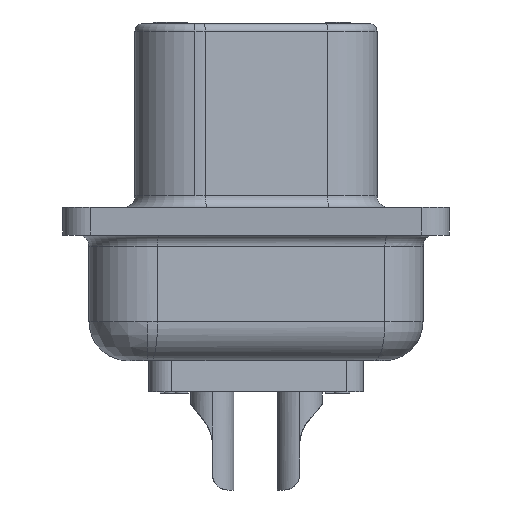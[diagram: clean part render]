
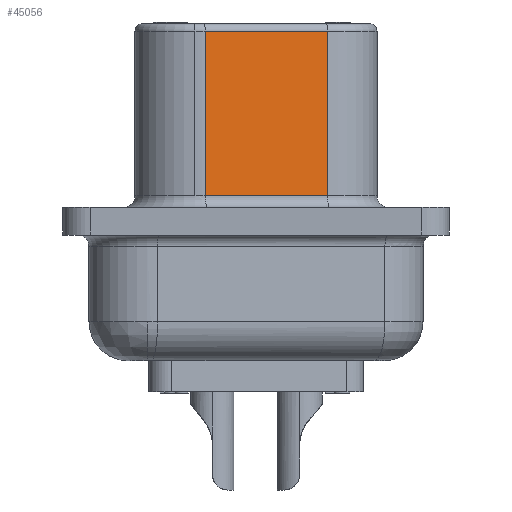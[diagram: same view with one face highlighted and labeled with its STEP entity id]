
A CAD part, left-side view. The second image highlights one B-rep face of the part: STEP entity #45056.
In plain terms, the highlighted planar face has unit normal (-0.985, -0.174, 0).
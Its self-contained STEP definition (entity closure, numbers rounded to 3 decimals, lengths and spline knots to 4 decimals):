
#5134 = VERTEX_POINT('',#5135);
#5135 = CARTESIAN_POINT('',(7.3049,7.9538,5.746));
#5150 = CYLINDRICAL_SURFACE('',#5151,1.9558);
#5151 = AXIS2_PLACEMENT_3D('',#5152,#5153,#5154);
#5152 = CARTESIAN_POINT('',(9.231,8.2934,6.));
#5153 = DIRECTION('',(-0.,-0.,-1.));
#5154 = DIRECTION('',(-1.,0.,0.));
#5177 = CYLINDRICAL_SURFACE('',#5178,0.254);
#5178 = AXIS2_PLACEMENT_3D('',#5179,#5180,#5181);
#5179 = CARTESIAN_POINT('',(8.2583,4.0095,5.746));
#5180 = DIRECTION('',(0.174,-0.985,0.));
#5181 = DIRECTION('',(0.985,0.174,0.));
#5338 = VERTEX_POINT('',#5339);
#5339 = CARTESIAN_POINT('',(7.3049,7.9538,0.381));
#5366 = EDGE_CURVE('',#5134,#5338,#5367,.T.);
#5367 = SURFACE_CURVE('',#5368,(#5372,#5379),.PCURVE_S1.);
#5368 = LINE('',#5369,#5370);
#5369 = CARTESIAN_POINT('',(7.3049,7.9538,6.));
#5370 = VECTOR('',#5371,1.);
#5371 = DIRECTION('',(-0.,-0.,-1.));
#5372 = PCURVE('',#5150,#5373);
#5373 = DEFINITIONAL_REPRESENTATION('',(#5374),#5378);
#5374 = LINE('',#5375,#5376);
#5375 = CARTESIAN_POINT('',(6.109,0.));
#5376 = VECTOR('',#5377,1.);
#5377 = DIRECTION('',(0.,1.));
#5378 = ( GEOMETRIC_REPRESENTATION_CONTEXT(2) 
PARAMETRIC_REPRESENTATION_CONTEXT() REPRESENTATION_CONTEXT('2D SPACE',''
  ) );
#5379 = PCURVE('',#5380,#5385);
#5380 = PLANE('',#5381);
#5381 = AXIS2_PLACEMENT_3D('',#5382,#5383,#5384);
#5382 = CARTESIAN_POINT('',(8.0082,3.9654,6.));
#5383 = DIRECTION('',(0.985,0.174,-0.));
#5384 = DIRECTION('',(-0.174,0.985,0.));
#5385 = DEFINITIONAL_REPRESENTATION('',(#5386),#5390);
#5386 = LINE('',#5387,#5388);
#5387 = CARTESIAN_POINT('',(4.05,0.));
#5388 = VECTOR('',#5389,1.);
#5389 = DIRECTION('',(0.,-1.));
#5390 = ( GEOMETRIC_REPRESENTATION_CONTEXT(2) 
PARAMETRIC_REPRESENTATION_CONTEXT() REPRESENTATION_CONTEXT('2D SPACE',''
  ) );
#43556 = CYLINDRICAL_SURFACE('',#43557,0.381);
#43557 = AXIS2_PLACEMENT_3D('',#43558,#43559,#43560);
#43558 = CARTESIAN_POINT('',(7.633,3.8992,0.381));
#43559 = DIRECTION('',(0.174,-0.985,0.));
#43560 = DIRECTION('',(0.985,0.174,0.));
#44531 = EDGE_CURVE('',#44532,#44534,#44536,.T.);
#44532 = VERTEX_POINT('',#44533);
#44533 = CARTESIAN_POINT('',(8.0082,3.9654,5.746));
#44534 = VERTEX_POINT('',#44535);
#44535 = CARTESIAN_POINT('',(8.0082,3.9654,0.381));
#44536 = SURFACE_CURVE('',#44537,(#44541,#44553),.PCURVE_S1.);
#44537 = LINE('',#44538,#44539);
#44538 = CARTESIAN_POINT('',(8.0082,3.9654,6.));
#44539 = VECTOR('',#44540,1.);
#44540 = DIRECTION('',(-0.,-0.,-1.));
#44541 = PCURVE('',#44542,#44547);
#44542 = CYLINDRICAL_SURFACE('',#44543,1.9558);
#44543 = AXIS2_PLACEMENT_3D('',#44544,#44545,#44546);
#44544 = CARTESIAN_POINT('',(9.9342,4.305,6.));
#44545 = DIRECTION('',(-0.,-0.,-1.));
#44546 = DIRECTION('',(-1.,0.,0.));
#44547 = DEFINITIONAL_REPRESENTATION('',(#44548),#44552);
#44548 = LINE('',#44549,#44550);
#44549 = CARTESIAN_POINT('',(6.109,0.));
#44550 = VECTOR('',#44551,1.);
#44551 = DIRECTION('',(0.,1.));
#44552 = ( GEOMETRIC_REPRESENTATION_CONTEXT(2) 
PARAMETRIC_REPRESENTATION_CONTEXT() REPRESENTATION_CONTEXT('2D SPACE',''
  ) );
#44553 = PCURVE('',#5380,#44554);
#44554 = DEFINITIONAL_REPRESENTATION('',(#44555),#44559);
#44555 = LINE('',#44556,#44557);
#44556 = CARTESIAN_POINT('',(0.,0.));
#44557 = VECTOR('',#44558,1.);
#44558 = DIRECTION('',(0.,-1.));
#44559 = ( GEOMETRIC_REPRESENTATION_CONTEXT(2) 
PARAMETRIC_REPRESENTATION_CONTEXT() REPRESENTATION_CONTEXT('2D SPACE',''
  ) );
#45056 = ADVANCED_FACE('',(#45057),#5380,.F.);
#45057 = FACE_BOUND('',#45058,.T.);
#45058 = EDGE_LOOP('',(#45059,#45060,#45081,#45082));
#45059 = ORIENTED_EDGE('',*,*,#5366,.T.);
#45060 = ORIENTED_EDGE('',*,*,#45061,.T.);
#45061 = EDGE_CURVE('',#5338,#44534,#45062,.T.);
#45062 = SURFACE_CURVE('',#45063,(#45067,#45074),.PCURVE_S1.);
#45063 = LINE('',#45064,#45065);
#45064 = CARTESIAN_POINT('',(8.0082,3.9654,0.381));
#45065 = VECTOR('',#45066,1.);
#45066 = DIRECTION('',(0.174,-0.985,0.));
#45067 = PCURVE('',#5380,#45068);
#45068 = DEFINITIONAL_REPRESENTATION('',(#45069),#45073);
#45069 = LINE('',#45070,#45071);
#45070 = CARTESIAN_POINT('',(0.,-5.619));
#45071 = VECTOR('',#45072,1.);
#45072 = DIRECTION('',(-1.,0.));
#45073 = ( GEOMETRIC_REPRESENTATION_CONTEXT(2) 
PARAMETRIC_REPRESENTATION_CONTEXT() REPRESENTATION_CONTEXT('2D SPACE',''
  ) );
#45074 = PCURVE('',#43556,#45075);
#45075 = DEFINITIONAL_REPRESENTATION('',(#45076),#45080);
#45076 = LINE('',#45077,#45078);
#45077 = CARTESIAN_POINT('',(6.283,0.));
#45078 = VECTOR('',#45079,1.);
#45079 = DIRECTION('',(0.,1.));
#45080 = ( GEOMETRIC_REPRESENTATION_CONTEXT(2) 
PARAMETRIC_REPRESENTATION_CONTEXT() REPRESENTATION_CONTEXT('2D SPACE',''
  ) );
#45081 = ORIENTED_EDGE('',*,*,#44531,.F.);
#45082 = ORIENTED_EDGE('',*,*,#45083,.T.);
#45083 = EDGE_CURVE('',#44532,#5134,#45084,.T.);
#45084 = SURFACE_CURVE('',#45085,(#45089,#45096),.PCURVE_S1.);
#45085 = LINE('',#45086,#45087);
#45086 = CARTESIAN_POINT('',(8.0082,3.9654,5.746));
#45087 = VECTOR('',#45088,1.);
#45088 = DIRECTION('',(-0.174,0.985,-0.));
#45089 = PCURVE('',#5380,#45090);
#45090 = DEFINITIONAL_REPRESENTATION('',(#45091),#45095);
#45091 = LINE('',#45092,#45093);
#45092 = CARTESIAN_POINT('',(0.,-0.254));
#45093 = VECTOR('',#45094,1.);
#45094 = DIRECTION('',(1.,0.));
#45095 = ( GEOMETRIC_REPRESENTATION_CONTEXT(2) 
PARAMETRIC_REPRESENTATION_CONTEXT() REPRESENTATION_CONTEXT('2D SPACE',''
  ) );
#45096 = PCURVE('',#5177,#45097);
#45097 = DEFINITIONAL_REPRESENTATION('',(#45098),#45102);
#45098 = LINE('',#45099,#45100);
#45099 = CARTESIAN_POINT('',(3.142,0.));
#45100 = VECTOR('',#45101,1.);
#45101 = DIRECTION('',(0.,-1.));
#45102 = ( GEOMETRIC_REPRESENTATION_CONTEXT(2) 
PARAMETRIC_REPRESENTATION_CONTEXT() REPRESENTATION_CONTEXT('2D SPACE',''
  ) );
